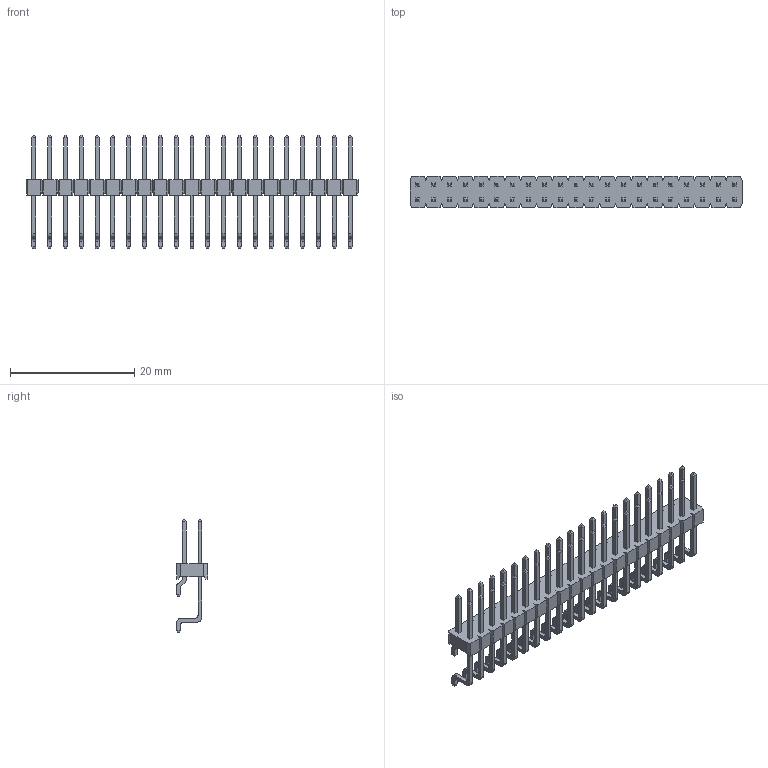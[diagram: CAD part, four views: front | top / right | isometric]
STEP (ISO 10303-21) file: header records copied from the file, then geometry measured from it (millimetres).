
FILE_DESCRIPTION(/* description */ (''),/* implementation_level */ '2;1');
FILE_NAME(/* name */ '961242-5900-XX-XX.stp',/* time_stamp */ '2008-06-11T13:25:11+02:00',/* author */ (''),/* organization */ (''),/* preprocessor_version */ 'ST-DEVELOPER v11',/* originating_system */ 'UGS - NX 5.0',/* authorisation */ '');
FILE_SCHEMA (('AUTOMOTIVE_DESIGN { 1 0 10303 214 1 1 1 1 }'));
Length unit declared in the file: millimetre
Products named in the file (1): 961242-5900-XX-XX
Bounding box: 53.34 x 5.02 x 18.2 mm (x, y, z)
Volume: 805.3 mm3; surface area: 2455.9 mm2
Topology: 1 solids, 1 shells, 1306 faces, 3324 edges, 2104 vertices
Faces by surface type: plane 1138, cylinder 168
Entity records: 38460 total; most frequent: CARTESIAN_POINT 6735, ORIENTED_EDGE 6648, DIRECTION 6274, EDGE_CURVE 3324, LINE 2988, VECTOR 2988, VERTEX_POINT 2104, AXIS2_PLACEMENT_3D 1643
